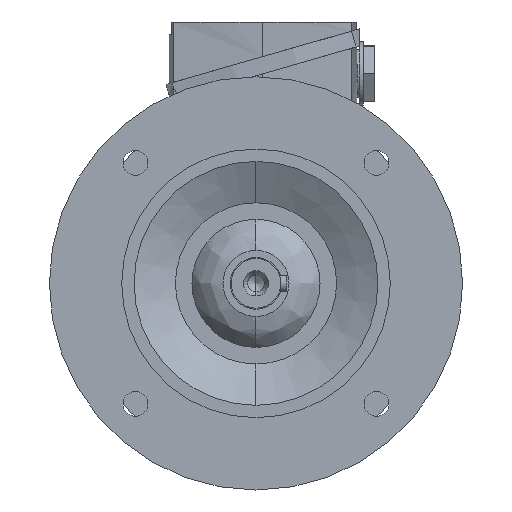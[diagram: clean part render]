
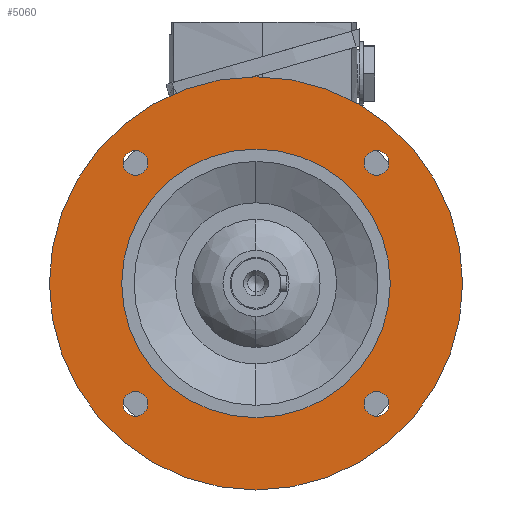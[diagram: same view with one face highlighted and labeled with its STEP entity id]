
A CAD part, left-side view. The second image highlights one B-rep face of the part: STEP entity #5060.
In plain terms, the highlighted planar face has unit normal (-1, 0, 0).
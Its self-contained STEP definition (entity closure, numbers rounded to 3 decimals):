
#260 = VERTEX_POINT ( 'NONE', #5858 ) ;
#682 = EDGE_CURVE ( 'NONE', #260, #12396, #3970, .T. ) ;
#780 = AXIS2_PLACEMENT_3D ( 'NONE', #7953, #19746, #9667 ) ;
#1110 = ORIENTED_EDGE ( 'NONE', *, *, #13510, .T. ) ;
#1269 = CARTESIAN_POINT ( 'NONE',  ( -34.5, 0., 100. ) ) ;
#1290 = EDGE_CURVE ( 'NONE', #19406, #6858, #8785, .T. ) ;
#1295 = CARTESIAN_POINT ( 'NONE',  ( -34.5, -58.336, 58.336 ) ) ;
#1589 = CARTESIAN_POINT ( 'NONE',  ( -34.5, -58.336, -64.336 ) ) ;
#2736 = CARTESIAN_POINT ( 'NONE',  ( -34.5, 0., 65. ) ) ;
#2823 = CARTESIAN_POINT ( 'NONE',  ( -34.5, 0., 0. ) ) ;
#2875 = DIRECTION ( 'NONE',  ( 0., 0., -1. ) ) ;
#3413 = ORIENTED_EDGE ( 'NONE', *, *, #9688, .T. ) ;
#3443 = EDGE_CURVE ( 'NONE', #12396, #260, #16034, .T. ) ;
#3566 = EDGE_CURVE ( 'NONE', #19437, #8127, #15619, .T. ) ;
#3690 = AXIS2_PLACEMENT_3D ( 'NONE', #4508, #4527, #4556 ) ;
#3702 = VERTEX_POINT ( 'NONE', #2736 ) ;
#3749 = CIRCLE ( 'NONE', #18168, 6. ) ;
#3905 = AXIS2_PLACEMENT_3D ( 'NONE', #2823, #14433, #4496 ) ;
#3970 = CIRCLE ( 'NONE', #12724, 6. ) ;
#4227 = EDGE_CURVE ( 'NONE', #8572, #20808, #12890, .T. ) ;
#4496 = DIRECTION ( 'NONE',  ( 0., 0., 1. ) ) ;
#4508 = CARTESIAN_POINT ( 'NONE',  ( -34.5, 0., 0. ) ) ;
#4527 = DIRECTION ( 'NONE',  ( 1., 0., 0. ) ) ;
#4556 = DIRECTION ( 'NONE',  ( 0., 0., 1. ) ) ;
#4625 = EDGE_LOOP ( 'NONE', ( #18936, #20362 ) ) ;
#4828 = VERTEX_POINT ( 'NONE', #14169 ) ;
#4871 = CARTESIAN_POINT ( 'NONE',  ( -34.5, 0., -100. ) ) ;
#5060 = ADVANCED_FACE ( 'NONE', ( #10236, #10279, #10323, #10196, #10174, #10151 ), #10633, .T. ) ;
#5491 = CARTESIAN_POINT ( 'NONE',  ( -34.5, 0., 0. ) ) ;
#5752 = DIRECTION ( 'NONE',  ( 0., 0., -1. ) ) ;
#5786 = DIRECTION ( 'NONE',  ( 1., 0., 0. ) ) ;
#5808 = CARTESIAN_POINT ( 'NONE',  ( -34.5, 58.336, -58.336 ) ) ;
#5858 = CARTESIAN_POINT ( 'NONE',  ( -34.5, 58.336, 64.336 ) ) ;
#5952 = CIRCLE ( 'NONE', #3905, 100. ) ;
#6057 = CARTESIAN_POINT ( 'NONE',  ( -34.5, 58.336, -58.336 ) ) ;
#6272 = AXIS2_PLACEMENT_3D ( 'NONE', #7723, #7647, #7605 ) ;
#6781 = EDGE_CURVE ( 'NONE', #8127, #19437, #3749, .T. ) ;
#6858 = VERTEX_POINT ( 'NONE', #4871 ) ;
#6918 = AXIS2_PLACEMENT_3D ( 'NONE', #6972, #18754, #8644 ) ;
#6972 = CARTESIAN_POINT ( 'NONE',  ( -34.5, -58.336, -58.336 ) ) ;
#6984 = ORIENTED_EDGE ( 'NONE', *, *, #4227, .T. ) ;
#7019 = CIRCLE ( 'NONE', #6918, 6. ) ;
#7121 = DIRECTION ( 'NONE',  ( 0., 0., 1. ) ) ;
#7605 = DIRECTION ( 'NONE',  ( 0., 0., -1. ) ) ;
#7647 = DIRECTION ( 'NONE',  ( 1., 0., 0. ) ) ;
#7717 = DIRECTION ( 'NONE',  ( 0., 0., -1. ) ) ;
#7723 = CARTESIAN_POINT ( 'NONE',  ( -34.5, 58.336, 58.336 ) ) ;
#7930 = DIRECTION ( 'NONE',  ( 1., 0., 0. ) ) ;
#7953 = CARTESIAN_POINT ( 'NONE',  ( -34.5, -58.336, 58.336 ) ) ;
#8127 = VERTEX_POINT ( 'NONE', #8400 ) ;
#8360 = CIRCLE ( 'NONE', #18446, 6. ) ;
#8400 = CARTESIAN_POINT ( 'NONE',  ( -34.5, 58.336, -52.336 ) ) ;
#8572 = VERTEX_POINT ( 'NONE', #1589 ) ;
#8644 = DIRECTION ( 'NONE',  ( 0., 0., -1. ) ) ;
#8785 = CIRCLE ( 'NONE', #3690, 100. ) ;
#9667 = DIRECTION ( 'NONE',  ( 0., 0., -1. ) ) ;
#9688 = EDGE_CURVE ( 'NONE', #3702, #16624, #21240, .T. ) ;
#9822 = ORIENTED_EDGE ( 'NONE', *, *, #3443, .T. ) ;
#9870 = EDGE_LOOP ( 'NONE', ( #3413, #12727 ) ) ;
#10151 = FACE_BOUND ( 'NONE', #18167, .T. ) ;
#10174 = FACE_BOUND ( 'NONE', #11859, .T. ) ;
#10196 = FACE_BOUND ( 'NONE', #10521, .T. ) ;
#10236 = FACE_BOUND ( 'NONE', #9870, .T. ) ;
#10279 = FACE_OUTER_BOUND ( 'NONE', #4625, .T. ) ;
#10291 = CARTESIAN_POINT ( 'NONE',  ( -34.5, 58.336, 52.336 ) ) ;
#10323 = FACE_BOUND ( 'NONE', #17570, .T. ) ;
#10521 = EDGE_LOOP ( 'NONE', ( #9822, #15216 ) ) ;
#10547 = DIRECTION ( 'NONE',  ( 0., 0., 1. ) ) ;
#10588 = DIRECTION ( 'NONE',  ( -1., 0., 0. ) ) ;
#10633 = PLANE ( 'NONE',  #19536 ) ;
#10890 = CARTESIAN_POINT ( 'NONE',  ( -34.5, 82.5, 0. ) ) ;
#11010 = CARTESIAN_POINT ( 'NONE',  ( -34.5, -58.336, 64.336 ) ) ;
#11259 = EDGE_CURVE ( 'NONE', #4828, #12612, #15320, .T. ) ;
#11620 = CARTESIAN_POINT ( 'NONE',  ( -34.5, 58.336, 58.336 ) ) ;
#11650 = CIRCLE ( 'NONE', #12399, 65. ) ;
#11800 = AXIS2_PLACEMENT_3D ( 'NONE', #17557, #15484, #16758 ) ;
#11859 = EDGE_LOOP ( 'NONE', ( #15224, #18261 ) ) ;
#12396 = VERTEX_POINT ( 'NONE', #10291 ) ;
#12399 = AXIS2_PLACEMENT_3D ( 'NONE', #5491, #17222, #7121 ) ;
#12612 = VERTEX_POINT ( 'NONE', #11010 ) ;
#12724 = AXIS2_PLACEMENT_3D ( 'NONE', #11620, #17266, #12861 ) ;
#12727 = ORIENTED_EDGE ( 'NONE', *, *, #19651, .T. ) ;
#12823 = DIRECTION ( 'NONE',  ( 1., 0., 0. ) ) ;
#12861 = DIRECTION ( 'NONE',  ( 0., 0., -1. ) ) ;
#12868 = CARTESIAN_POINT ( 'NONE',  ( -34.5, 58.336, -64.336 ) ) ;
#12890 = CIRCLE ( 'NONE', #11800, 6. ) ;
#13396 = ORIENTED_EDGE ( 'NONE', *, *, #11259, .T. ) ;
#13510 = EDGE_CURVE ( 'NONE', #20808, #8572, #7019, .T. ) ;
#13917 = EDGE_CURVE ( 'NONE', #6858, #19406, #5952, .T. ) ;
#14169 = CARTESIAN_POINT ( 'NONE',  ( -34.5, -58.336, 52.336 ) ) ;
#14273 = AXIS2_PLACEMENT_3D ( 'NONE', #18044, #7930, #19724 ) ;
#14372 = CARTESIAN_POINT ( 'NONE',  ( -34.5, -58.336, -52.336 ) ) ;
#14433 = DIRECTION ( 'NONE',  ( 1., 0., 0. ) ) ;
#15216 = ORIENTED_EDGE ( 'NONE', *, *, #682, .T. ) ;
#15224 = ORIENTED_EDGE ( 'NONE', *, *, #3566, .T. ) ;
#15320 = CIRCLE ( 'NONE', #780, 6. ) ;
#15484 = DIRECTION ( 'NONE',  ( 1., 0., 0. ) ) ;
#15619 = CIRCLE ( 'NONE', #19806, 6. ) ;
#16034 = CIRCLE ( 'NONE', #6272, 6. ) ;
#16624 = VERTEX_POINT ( 'NONE', #21149 ) ;
#16650 = EDGE_CURVE ( 'NONE', #12612, #4828, #8360, .T. ) ;
#16758 = DIRECTION ( 'NONE',  ( 0., 0., -1. ) ) ;
#17222 = DIRECTION ( 'NONE',  ( 1., 0., 0. ) ) ;
#17266 = DIRECTION ( 'NONE',  ( 1., 0., 0. ) ) ;
#17557 = CARTESIAN_POINT ( 'NONE',  ( -34.5, -58.336, -58.336 ) ) ;
#17570 = EDGE_LOOP ( 'NONE', ( #13396, #19345 ) ) ;
#17825 = DIRECTION ( 'NONE',  ( 1., 0., 0. ) ) ;
#18044 = CARTESIAN_POINT ( 'NONE',  ( -34.5, 0., 0. ) ) ;
#18167 = EDGE_LOOP ( 'NONE', ( #6984, #1110 ) ) ;
#18168 = AXIS2_PLACEMENT_3D ( 'NONE', #6057, #17825, #7717 ) ;
#18261 = ORIENTED_EDGE ( 'NONE', *, *, #6781, .T. ) ;
#18446 = AXIS2_PLACEMENT_3D ( 'NONE', #1295, #12823, #2875 ) ;
#18754 = DIRECTION ( 'NONE',  ( 1., 0., 0. ) ) ;
#18936 = ORIENTED_EDGE ( 'NONE', *, *, #1290, .F. ) ;
#19345 = ORIENTED_EDGE ( 'NONE', *, *, #16650, .T. ) ;
#19406 = VERTEX_POINT ( 'NONE', #1269 ) ;
#19437 = VERTEX_POINT ( 'NONE', #12868 ) ;
#19536 = AXIS2_PLACEMENT_3D ( 'NONE', #10890, #10588, #10547 ) ;
#19651 = EDGE_CURVE ( 'NONE', #16624, #3702, #11650, .T. ) ;
#19724 = DIRECTION ( 'NONE',  ( 0., 0., 1. ) ) ;
#19746 = DIRECTION ( 'NONE',  ( 1., 0., 0. ) ) ;
#19806 = AXIS2_PLACEMENT_3D ( 'NONE', #5808, #5786, #5752 ) ;
#20362 = ORIENTED_EDGE ( 'NONE', *, *, #13917, .F. ) ;
#20808 = VERTEX_POINT ( 'NONE', #14372 ) ;
#21149 = CARTESIAN_POINT ( 'NONE',  ( -34.5, 0., -65. ) ) ;
#21240 = CIRCLE ( 'NONE', #14273, 65. ) ;
